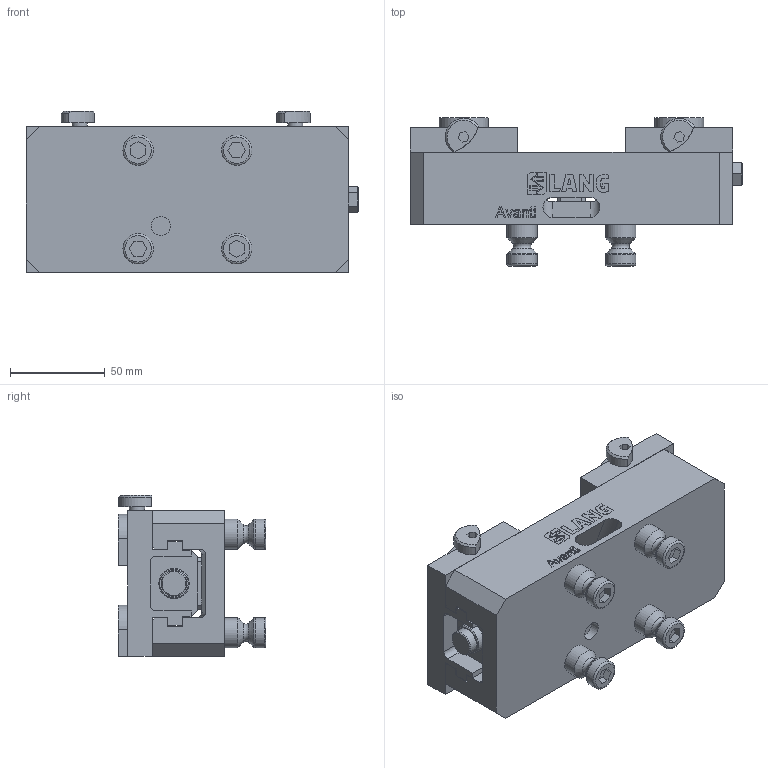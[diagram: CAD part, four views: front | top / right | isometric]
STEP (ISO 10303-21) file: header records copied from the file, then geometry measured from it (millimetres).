
FILE_DESCRIPTION (( 'STEP AP214' ), '1' );
FILE_NAME ('44160-77.STEP', '2020-02-07T15:07:51', ( '' ), ( '' ), 'SwSTEP 2.0', 'SolidWorks 2019', '' );
FILE_SCHEMA (( 'AUTOMOTIVE_DESIGN' ));
Length unit declared in the file: millimetre
Products named in the file (3): Avanti_44160-77; 44160-77; 44771-77
Assembly tree (3 placements, depth 2):
  44160-77
    Avanti_44160-77
    44771-77  x2
Bounding box: 175.15 x 78 x 85.1 mm (x, y, z)
Volume: 544193.2 mm3; surface area: 121561 mm2
Topology: 38 solids, 38 shells, 758 faces, 1916 edges, 1257 vertices
Faces by surface type: plane 563, bspline 98, cylinder 64, cone 21, torus 12
Full cylindrical faces by diameter (mm): 6.8 x4, 8 x2, 10 x1, 12 x8, 13.5 x1, 16 x12
Entity records: 30688 total; most frequent: CARTESIAN_POINT 6863, ORIENTED_EDGE 3362, DIRECTION 2762, EDGE_CURVE 1681, LINE 1346, VECTOR 1346, VERTEX_POINT 1137, EDGE_LOOP 790
